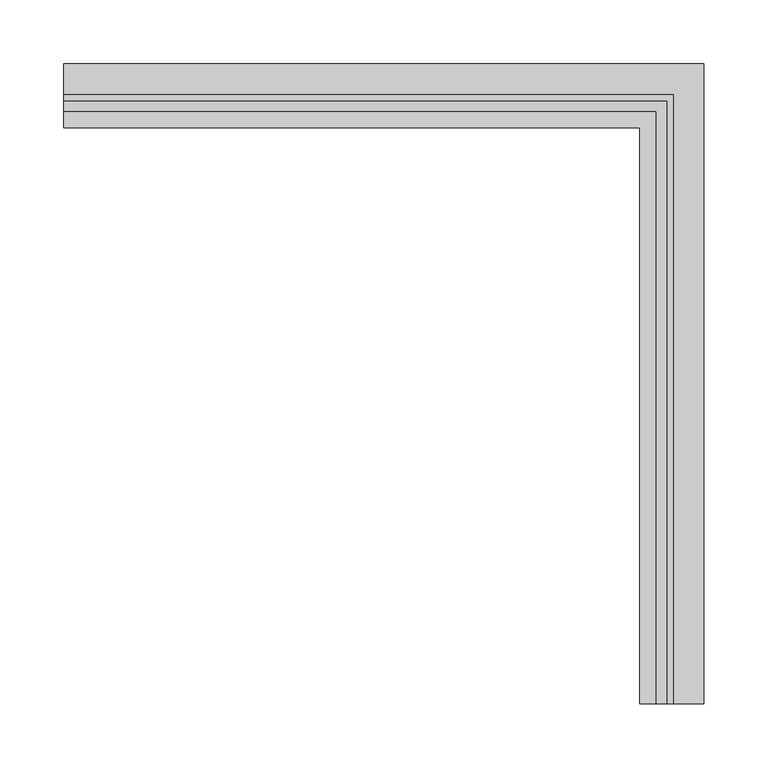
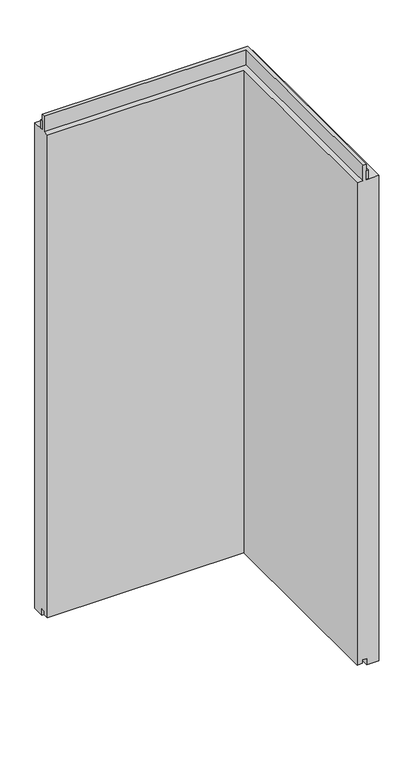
"""IFC4 building model written with IfcOpenShell, lengths in millimetres: plate geometry, Trimo_Qbiss Screen_L Corner Panel-HORIZONTAL : HR - B."""

from ifc_helpers import new_model, si_unit, frame, origin, place, context, project, spatial, polyline, outline, extrude, faceted_brep, source, transform, mapped, element, save


def plate_7a612063(model_context):
    return source(origin(), model_context, "Body", "SolidModel", [
        extrude(outline(polyline([(-193.75, 71.0), (-193.75, 76.0), (282.25, 76.0), (282.25, -400.0), (277.25, -400.0), (277.25, 71.0), (-193.75, 71.0)])), frame((0.0, 0.0, 1178.0), z_axis=(0.0, 0.0, 1.0), x_axis=(1.0, 0.0, 0.0)), (0.0, 0.0, 1.0), 21.0),
        faceted_brep([(-193.75, 71.0, 1177.0), (-193.75, 100.0, 1177.0), (-193.75, 100.0, 0.0), (-193.75, 72.0, 0.0), (-193.75, 72.0, 15.5), (-193.75, 62.0, 15.5), (-193.75, 62.0, 7.0), (-193.75, 50.0, 7.0), (-193.75, 50.0, 1177.0), (-193.75, 63.0, 1177.0), (-193.75, 63.0, 1214.5), (-193.75, 71.0, 1214.5), (277.25, 71.0, 1177.0), (277.25, -400.0, 1177.0), (306.25, -400.0, 1177.0), (306.25, 100.0, 1177.0), (306.25, 100.0, 0.0), (306.25, -400.0, 0.0), (278.25, -400.0, 0.0), (278.25, 72.0, 0.0), (278.25, 72.0, 15.5), (278.25, -400.0, 15.5), (268.25, -400.0, 15.5), (268.25, 62.0, 15.5), (268.25, 62.0, 7.0), (268.25, -400.0, 7.0), (256.25, -400.0, 7.0), (256.25, 50.0, 7.0), (256.25, 50.0, 1177.0), (256.25, -400.0, 1177.0), (269.25, -400.0, 1177.0), (269.25, 63.0, 1177.0), (269.25, 63.0, 1214.5), (269.25, -400.0, 1214.5), (277.25, -400.0, 1214.5), (277.25, 71.0, 1214.5)], [[[0, 1, 2, 3, 4, 5, 6, 7, 8, 9, 10, 11]], [[1, 0, 12, 13, 14, 15]], [[2, 1, 15, 16]], [[3, 2, 16, 17, 18, 19]], [[4, 3, 19, 20]], [[5, 4, 20, 21, 22, 23]], [[6, 5, 23, 24]], [[7, 6, 24, 25, 26, 27]], [[8, 7, 27, 28]], [[9, 8, 28, 29, 30, 31]], [[10, 9, 31, 32]], [[11, 10, 32, 33, 34, 35]], [[0, 11, 35, 12]], [[13, 34, 33, 30, 29, 26, 25, 22, 21, 18, 17, 14]], [[16, 15, 14, 17]], [[20, 19, 18, 21]], [[24, 23, 22, 25]], [[28, 27, 26, 29]], [[32, 31, 30, 33]], [[12, 35, 34, 13]]]),
    ])


if __name__ == "__main__":
    model = new_model("IFC4")
    model_context = context("Model", 3, world=origin())
    ifc_project = project(units=[si_unit("LENGTHUNIT", "METRE", prefix="MILLI")], contexts=[model_context])
    site = spatial("IfcSite", under=ifc_project)
    building = spatial("IfcBuilding", under=site)
    placement = place(None, origin())
    plate_shape = plate_7a612063(model_context)
    element("IfcPlate", 1, ObjectType="Trimo_Qbiss Screen_L Corner Panel-HORIZONTAL : HR - B", at=placement, inside=building, context=model_context, shape_type="MappedRepresentation", body=[
        mapped(plate_shape, transform((0.0, 0.0, 0.0), x_axis=(1.0, 0.0, 0.0), y_axis=(0.0, 1.0, 0.0), z_axis=(0.0, 0.0, 1.0))),
    ])
    save(model, "model.ifc")
